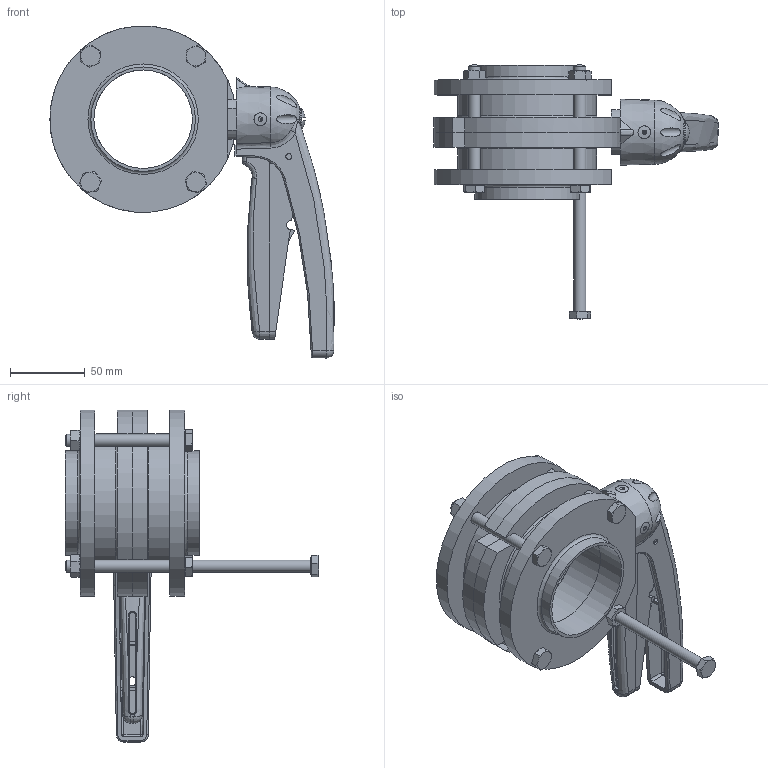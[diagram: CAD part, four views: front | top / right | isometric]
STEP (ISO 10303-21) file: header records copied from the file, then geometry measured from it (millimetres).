
FILE_DESCRIPTION(/* description */ ('VVF VALV.FARF.DN65(70X2) WAF4 316 EPDM LEVA 5POS.'),/* implementation_level */ '2;1');
FILE_NAME(/* name */ 'C:\_DED_PWS\ZIGN-L\DB\B\EBA\BEBAC6065BEAA-00^SAGOMA.step',/* time_stamp */ '2022-06-22T10:28:04+02:00',/* author */ ('malp-m'),/* organization */ (''),/* preprocessor_version */ 'ST-DEVELOPER v18.1',/* originating_system */ 'Autodesk Inventor 2022',/* authorisation */ '');
FILE_SCHEMA (('CONFIG_CONTROL_DESIGN'));
Length unit declared in the file: millimetre
Products named in the file (6): BEBAC6065BEAA; MEZZO-COR-DN065-WAFER-4; FLANGIA-DN65-WAFER-4; UNI 5588 - M8; Maniglia-5-posizioni-nuova-versione finale 01-2008- 25 - - 65; UNI 5739 - M8 x 80
Assembly tree (14 placements, depth 2):
  BEBAC6065BEAA
    FLANGIA-DN65-WAFER-4  x2
    MEZZO-COR-DN065-WAFER-4  x2
    UNI 5739 - M8 x 80  x5
    UNI 5588 - M8  x4
    Maniglia-5-posizioni-nuova-versione finale 01-2008- 25 - - 65
Bounding box: 190.46 x 170 x 222.42 mm (x, y, z)
Volume: 578963.8 mm3; surface area: 190415 mm2
Topology: 14 solids, 15 shells, 655 faces, 1608 edges, 1006 vertices
Faces by surface type: plane 290, cylinder 134, cone 119, bspline 81, sphere 18, torus 13
Full cylindrical faces by diameter (mm): 4 x3, 6 x2, 6.2 x4, 6.5 x1, 6.647 x4, 8 x5, 8.5 x12, 11.63 x5, 12.5 x2, 13 x1, 14.5 x1, 66 x4, 70 x2, 93 x2
Entity records: 23994 total; most frequent: CARTESIAN_POINT 12349, ORIENTED_EDGE 2442, DIRECTION 2119, EDGE_CURVE 1221, VERTEX_POINT 771, AXIS2_PLACEMENT_3D 770, LINE 579, VECTOR 579
